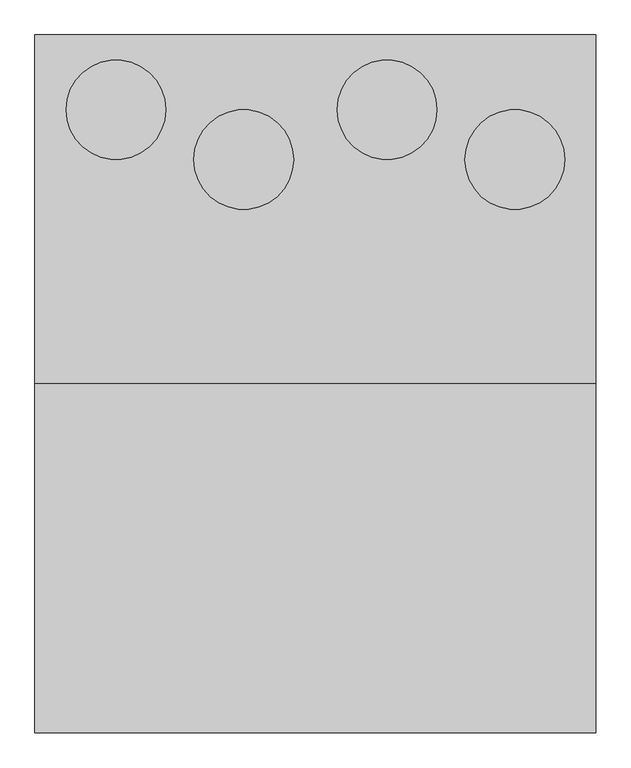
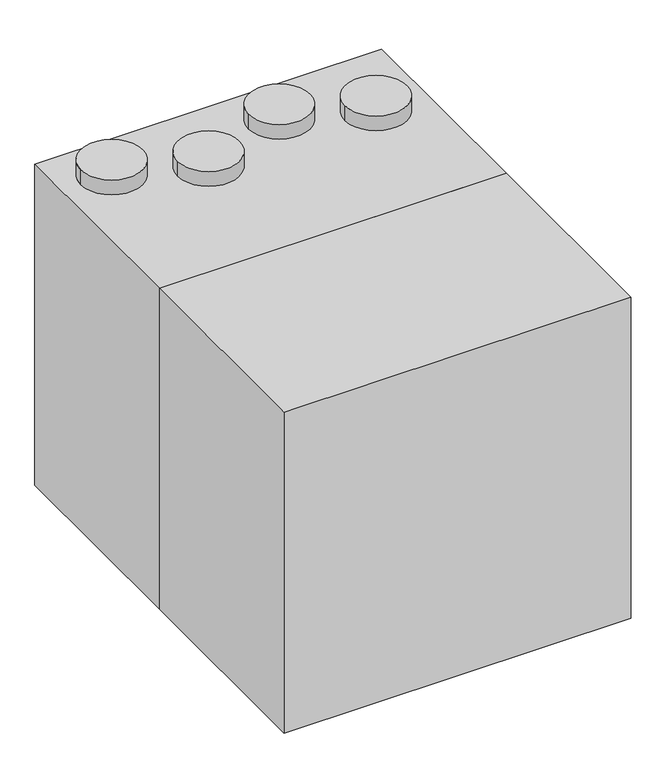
"""IFC4 building model written with IfcOpenShell, lengths in millimetres: proxy geometry, ADSK_КПВУ RIVIERA-EC VRE_круглая : Riviera-EC VRE 450."""

from ifc_helpers import new_model, si_unit, frame, origin, origin_with_axes, place, context, project, spatial, polyline, circle_curve, outline, extrude, source, transform, mapped, element, save
from ifc_brep_helpers import plane_surface, cylinder_surface, advanced_brep


def mechanical_equipment_d0d0ea28(model_context):
    return source(origin(), model_context, "Body", "SolidModel", [
        extrude(outline(polyline([(716.0, -280.0), (716.0, -840.0), (-184.0, -840.0), (-184.0, -280.0), (716.0, -280.0)])), origin_with_axes(), (0.0, 0.0, 1.0), 880.0),
        advanced_brep(
        [(716.0, -280.0, 0.0), (716.0, -280.0, 880.0), (-184.0, -280.0, 880.0), (-184.0, -280.0, 0.0), (-184.0, 280.0, 0.0), (-184.0, 280.0, 880.0), (716.0, 280.0, 880.0), (716.0, 280.0, 0.0), (-134.0, 160.0, 920.0), (26.0, 160.0, 920.0), (71.0, 80.0, 920.0), (231.0, 80.0, 920.0), (301.0, 160.0, 920.0), (461.0, 160.0, 920.0), (506.0, 80.0, 920.0), (666.0, 80.0, 920.0), (-134.0, 160.0, 880.0), (26.0, 160.0, 880.0), (71.0, 80.0, 880.0), (231.0, 80.0, 880.0), (301.0, 160.0, 880.0), (461.0, 160.0, 880.0), (506.0, 80.0, 880.0), (666.0, 80.0, 880.0)],
        [
            (0, 1),
            (1, 2),
            (2, 3),
            (3, 0),
            (4, 5),
            (5, 6),
            (6, 7),
            (7, 4),
            (7, 0),
            (3, 4),
            (8, 9, circle_curve(frame((-54.0, 160.0, 920.0), z_axis=(0.0, 0.0, 1.0), x_axis=(1.0, 0.0, 0.0)), 80.0)),
            (9, 8, circle_curve(frame((-54.0, 160.0, 920.0), z_axis=(0.0, 0.0, 1.0), x_axis=(1.0, 0.0, 0.0)), 80.0)),
            (10, 11, circle_curve(frame((151.0, 80.0, 920.0), z_axis=(0.0, 0.0, 1.0), x_axis=(1.0, 0.0, 0.0)), 80.0)),
            (11, 10, circle_curve(frame((151.0, 80.0, 920.0), z_axis=(0.0, 0.0, 1.0), x_axis=(1.0, 0.0, 0.0)), 80.0)),
            (12, 13, circle_curve(frame((381.0, 160.0, 920.0), z_axis=(0.0, 0.0, 1.0), x_axis=(1.0, 0.0, 0.0)), 80.0)),
            (13, 12, circle_curve(frame((381.0, 160.0, 920.0), z_axis=(0.0, 0.0, 1.0), x_axis=(1.0, 0.0, 0.0)), 80.0)),
            (14, 15, circle_curve(frame((586.0, 80.0, 920.0), z_axis=(0.0, 0.0, 1.0), x_axis=(1.0, 0.0, 0.0)), 80.0)),
            (15, 14, circle_curve(frame((586.0, 80.0, 920.0), z_axis=(0.0, 0.0, 1.0), x_axis=(1.0, 0.0, 0.0)), 80.0)),
            (8, 16),
            (16, 17, circle_curve(frame((-54.0, 160.0, 880.0), z_axis=(0.0, 0.0, 1.0), x_axis=(1.0, 0.0, 0.0)), 80.0)),
            (17, 9),
            (17, 16, circle_curve(frame((-54.0, 160.0, 880.0), z_axis=(0.0, 0.0, 1.0), x_axis=(1.0, 0.0, 0.0)), 80.0)),
            (10, 18),
            (18, 19, circle_curve(frame((151.0, 80.0, 880.0), z_axis=(0.0, 0.0, 1.0), x_axis=(1.0, 0.0, 0.0)), 80.0)),
            (19, 11),
            (19, 18, circle_curve(frame((151.0, 80.0, 880.0), z_axis=(0.0, 0.0, 1.0), x_axis=(1.0, 0.0, 0.0)), 80.0)),
            (12, 20),
            (20, 21, circle_curve(frame((381.0, 160.0, 880.0), z_axis=(0.0, 0.0, 1.0), x_axis=(1.0, 0.0, 0.0)), 80.0)),
            (21, 13),
            (21, 20, circle_curve(frame((381.0, 160.0, 880.0), z_axis=(0.0, 0.0, 1.0), x_axis=(1.0, 0.0, 0.0)), 80.0)),
            (14, 22),
            (22, 23, circle_curve(frame((586.0, 80.0, 880.0), z_axis=(0.0, 0.0, 1.0), x_axis=(1.0, 0.0, 0.0)), 80.0)),
            (23, 15),
            (23, 22, circle_curve(frame((586.0, 80.0, 880.0), z_axis=(0.0, 0.0, 1.0), x_axis=(1.0, 0.0, 0.0)), 80.0)),
            (6, 1),
            (2, 5),
        ],
        [
            plane_surface(frame((-24.0, -280.0, 0.0), z_axis=(0.0, -1.0, 0.0), x_axis=(0.0, 0.0, 1.0))),
            plane_surface(frame((-24.0, 280.0, 0.0), z_axis=(0.0, 1.0, 0.0), x_axis=(0.0, 0.0, -1.0))),
            plane_surface(frame((-84.0, -280.0, 0.0), z_axis=(0.0, 0.0, -1.0), x_axis=(0.0, 1.0, 0.0))),
            plane_surface(frame((26.0, 160.0, 920.0), z_axis=(0.0, 0.0, 1.0), x_axis=(0.0, 1.0, 0.0))),
            cylinder_surface(frame((-54.0, 160.0, 880.0), z_axis=(0.0, 0.0, 1.0), x_axis=(1.0, 0.0, 0.0)), 80.0),
            cylinder_surface(frame((151.0, 80.0, 0.0), z_axis=(0.0, 0.0, 1.0), x_axis=(1.0, 0.0, 0.0)), 80.0),
            cylinder_surface(frame((381.0, 160.0, 0.0), z_axis=(0.0, 0.0, 1.0), x_axis=(1.0, 0.0, 0.0)), 80.0),
            cylinder_surface(frame((586.0, 80.0, 0.0), z_axis=(0.0, 0.0, 1.0), x_axis=(1.0, 0.0, 0.0)), 80.0),
            plane_surface(frame((716.0, -280.0, 880.0), z_axis=(1.0, 0.0, 0.0), x_axis=(0.0, 0.0, -1.0))),
            plane_surface(frame((-184.0, -280.0, 880.0), z_axis=(-1.0, 0.0, 0.0), x_axis=(0.0, 0.0, 1.0))),
            plane_surface(frame((716.0, 280.0, 880.0), z_axis=(0.0, 0.0, 1.0), x_axis=(-1.0, 0.0, 0.0))),
        ],
        [
            (0, [[1, 2, 3, 4]]),
            (1, [[5, 6, 7, 8]]),
            (2, [[-8, 9, -4, 10]]),
            (3, [[11, 12]]),
            (3, [[13, 14]]),
            (3, [[15, 16]]),
            (3, [[17, 18]]),
            (4, [[-11, 19, 20, 21]]),
            (4, [[-12, -21, 22, -19]]),
            (5, [[-13, 23, 24, 25]]),
            (5, [[-14, -25, 26, -23]]),
            (6, [[-15, 27, 28, 29]]),
            (6, [[-16, -29, 30, -27]]),
            (7, [[-17, 31, 32, 33]]),
            (7, [[-18, -33, 34, -31]]),
            (8, [[-1, -9, -7, 35]]),
            (9, [[36, -5, -10, -3]]),
            (10, [[-35, -6, -36, -2], [-20, -22], [-24, -26], [-28, -30], [-32, -34]]),
        ],
    ),
    ])


if __name__ == "__main__":
    model = new_model("IFC4")
    model_context = context("Model", 3, world=origin())
    ifc_project = project(units=[si_unit("LENGTHUNIT", "METRE", prefix="MILLI")], contexts=[model_context])
    site = spatial("IfcSite", under=ifc_project)
    building = spatial("IfcBuilding", under=site)
    placement = place(None, origin())
    mechanical_equipment_shape = mechanical_equipment_d0d0ea28(model_context)
    element("IfcBuildingElementProxy", 1, Name="ADSK_КПВУ RIVIERA-EC VRE_круглая : Riviera-EC VRE 450", ObjectType="ADSK_КПВУ RIVIERA-EC VRE_круглая : Riviera-EC VRE 450", at=placement, inside=building, context=model_context, shape_type="MappedRepresentation", body=[
        mapped(mechanical_equipment_shape, transform((0.0, 0.0, 0.0), x_axis=(1.0, 0.0, 0.0), y_axis=(0.0, 1.0, 0.0), z_axis=(0.0, 0.0, 1.0))),
    ])
    save(model, "model.ifc")
